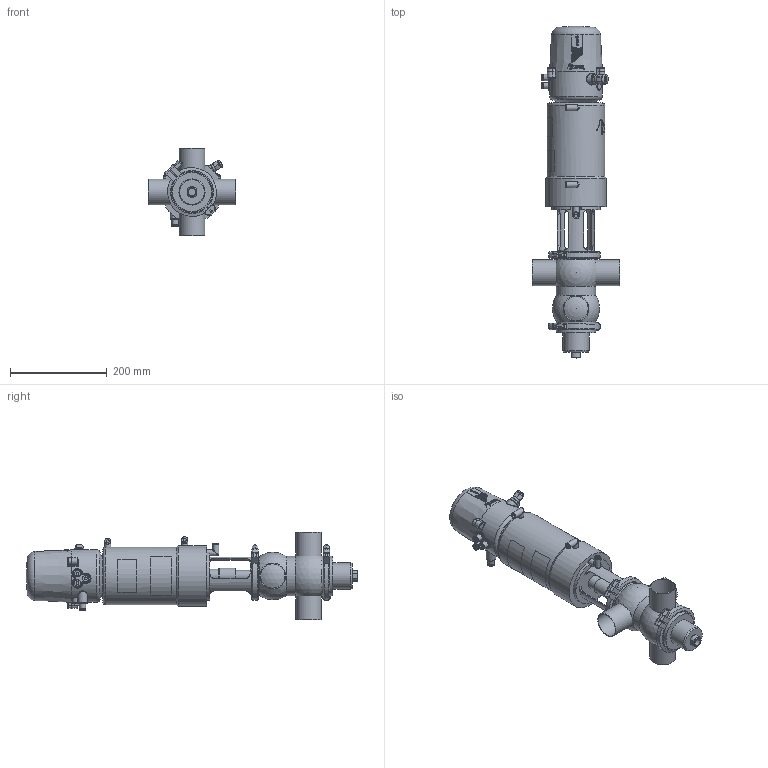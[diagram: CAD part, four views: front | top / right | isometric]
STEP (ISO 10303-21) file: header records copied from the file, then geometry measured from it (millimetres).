
FILE_DESCRIPTION (( 'STEP AP214' ), '1' );
FILE_NAME ('INNOVA P CB-90 W DIN 050 & C-TOP S_10.250.16.0015.STEP', '2024-08-09T11:37:55', ( '' ), ( '' ), 'SwSTEP 2.0', 'SolidWorks 2023', '' );
FILE_SCHEMA (( 'AUTOMOTIVE_DESIGN' ));
Length unit declared in the file: millimetre
Products named in the file (7): 10.251.15.0007_DIN 050; 10.250.15.0003_DN 050; 10.240.15.0001_DN 050; 10.250.15.0001_DIN 050; INNOVA P CB-90 W DIN 050 & C-TOP S_10.250.16.0015; 10.426.15.0001_C-TOP S - 3 EV; 10.250.15.0002_Type P T1
Assembly tree (7 placements, depth 2):
  INNOVA P CB-90 W DIN 050 & C-TOP S_10.250.16.0015
    10.250.15.0001_DIN 050
    10.250.15.0002_Type P T1
    10.426.15.0001_C-TOP S - 3 EV
    10.251.15.0007_DIN 050
    10.240.15.0001_DN 050  x2
    10.250.15.0003_DN 050
Bounding box: 180 x 686 x 180 mm (x, y, z)
Volume: 5292903.7 mm3; surface area: 424347.2 mm2
Topology: 7 solids, 7 shells, 1211 faces, 2914 edges, 1935 vertices
Faces by surface type: plane 415, cylinder 387, cone 203, bspline 163, torus 33, sphere 10
Full cylindrical faces by diameter (mm): 0.371 x17, 0.512 x16, 0.658 x16, 0.795 x16, 0.94 x15, 1.098 x15, 1.241 x13, 1.382 x13, 1.523 x11, 1.669 x10, 2.201 x1, 4.2 x2, 5 x1, 5.5 x2, 6 x4, 6.15 x3, 8 x5, 10 x1, 10.5 x3, 11 x4, 12.5 x9, 13 x6, 13.5 x2, 16 x1, 17 x3, 20 x2, 22 x2, 23 x1, 28 x1, 31.5 x1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
Entity records: 59267 total; most frequent: CARTESIAN_POINT 27713, ORIENTED_EDGE 4628, DIRECTION 3785, EDGE_CURVE 2314, VERTEX_POINT 1650, EDGE_LOOP 1636, AXIS2_PLACEMENT_3D 1559, FACE_OUTER_BOUND 1382
